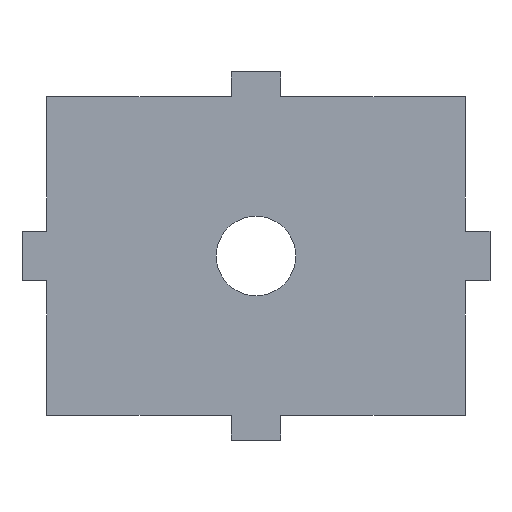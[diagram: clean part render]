
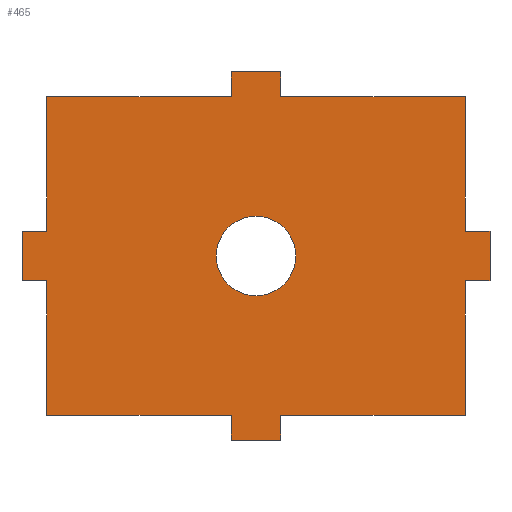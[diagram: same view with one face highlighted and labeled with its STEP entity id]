
A CAD part, front view. The second image highlights one B-rep face of the part: STEP entity #465.
In plain terms, the highlighted planar face has unit normal (0, -1, 0).
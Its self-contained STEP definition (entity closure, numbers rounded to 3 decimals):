
#16=FACE_BOUND('',#86,.T.);
#38=PLANE('',#504);
#61=FACE_OUTER_BOUND('',#85,.T.);
#85=EDGE_LOOP('',(#421,#422,#423,#424,#425,#426,#427,#428,#429,#430,#431,
#432,#433,#434,#435,#436,#437,#438,#439,#440));
#86=EDGE_LOOP('',(#441));
#88=LINE('',#628,#149);
#92=LINE('',#636,#153);
#95=LINE('',#642,#156);
#98=LINE('',#648,#159);
#101=LINE('',#654,#162);
#104=LINE('',#660,#165);
#107=LINE('',#666,#168);
#110=LINE('',#672,#171);
#113=LINE('',#678,#174);
#116=LINE('',#684,#177);
#119=LINE('',#690,#180);
#122=LINE('',#696,#183);
#125=LINE('',#702,#186);
#128=LINE('',#708,#189);
#131=LINE('',#714,#192);
#134=LINE('',#720,#195);
#137=LINE('',#726,#198);
#140=LINE('',#732,#201);
#143=LINE('',#738,#204);
#146=LINE('',#743,#207);
#149=VECTOR('',#516,10.);
#153=VECTOR('',#522,10.);
#156=VECTOR('',#527,10.);
#159=VECTOR('',#532,10.);
#162=VECTOR('',#537,10.);
#165=VECTOR('',#542,10.);
#168=VECTOR('',#547,10.);
#171=VECTOR('',#552,10.);
#174=VECTOR('',#557,10.);
#177=VECTOR('',#562,10.);
#180=VECTOR('',#567,10.);
#183=VECTOR('',#572,10.);
#186=VECTOR('',#577,10.);
#189=VECTOR('',#582,10.);
#192=VECTOR('',#587,10.);
#195=VECTOR('',#592,10.);
#198=VECTOR('',#597,10.);
#201=VECTOR('',#602,10.);
#204=VECTOR('',#607,10.);
#207=VECTOR('',#612,10.);
#210=CIRCLE('',#482,8.);
#212=VERTEX_POINT('',#622);
#213=VERTEX_POINT('',#626);
#214=VERTEX_POINT('',#627);
#217=VERTEX_POINT('',#635);
#219=VERTEX_POINT('',#641);
#221=VERTEX_POINT('',#647);
#223=VERTEX_POINT('',#653);
#225=VERTEX_POINT('',#659);
#227=VERTEX_POINT('',#665);
#229=VERTEX_POINT('',#671);
#231=VERTEX_POINT('',#677);
#233=VERTEX_POINT('',#683);
#235=VERTEX_POINT('',#689);
#237=VERTEX_POINT('',#695);
#239=VERTEX_POINT('',#701);
#241=VERTEX_POINT('',#707);
#243=VERTEX_POINT('',#713);
#245=VERTEX_POINT('',#719);
#247=VERTEX_POINT('',#725);
#249=VERTEX_POINT('',#731);
#251=VERTEX_POINT('',#737);
#255=EDGE_CURVE('',#212,#212,#210,.T.);
#256=EDGE_CURVE('',#213,#214,#88,.T.);
#260=EDGE_CURVE('',#214,#217,#92,.T.);
#263=EDGE_CURVE('',#217,#219,#95,.T.);
#266=EDGE_CURVE('',#219,#221,#98,.T.);
#269=EDGE_CURVE('',#221,#223,#101,.T.);
#272=EDGE_CURVE('',#223,#225,#104,.T.);
#275=EDGE_CURVE('',#225,#227,#107,.T.);
#278=EDGE_CURVE('',#227,#229,#110,.T.);
#281=EDGE_CURVE('',#229,#231,#113,.T.);
#284=EDGE_CURVE('',#231,#233,#116,.T.);
#287=EDGE_CURVE('',#235,#233,#119,.T.);
#290=EDGE_CURVE('',#237,#235,#122,.T.);
#293=EDGE_CURVE('',#239,#237,#125,.T.);
#296=EDGE_CURVE('',#241,#239,#128,.T.);
#299=EDGE_CURVE('',#243,#241,#131,.T.);
#302=EDGE_CURVE('',#245,#243,#134,.T.);
#305=EDGE_CURVE('',#247,#245,#137,.T.);
#308=EDGE_CURVE('',#249,#247,#140,.T.);
#311=EDGE_CURVE('',#251,#249,#143,.T.);
#314=EDGE_CURVE('',#213,#251,#146,.T.);
#421=ORIENTED_EDGE('',*,*,#314,.F.);
#422=ORIENTED_EDGE('',*,*,#256,.T.);
#423=ORIENTED_EDGE('',*,*,#260,.T.);
#424=ORIENTED_EDGE('',*,*,#263,.T.);
#425=ORIENTED_EDGE('',*,*,#266,.T.);
#426=ORIENTED_EDGE('',*,*,#269,.T.);
#427=ORIENTED_EDGE('',*,*,#272,.T.);
#428=ORIENTED_EDGE('',*,*,#275,.T.);
#429=ORIENTED_EDGE('',*,*,#278,.T.);
#430=ORIENTED_EDGE('',*,*,#281,.T.);
#431=ORIENTED_EDGE('',*,*,#284,.T.);
#432=ORIENTED_EDGE('',*,*,#287,.F.);
#433=ORIENTED_EDGE('',*,*,#290,.F.);
#434=ORIENTED_EDGE('',*,*,#293,.F.);
#435=ORIENTED_EDGE('',*,*,#296,.F.);
#436=ORIENTED_EDGE('',*,*,#299,.F.);
#437=ORIENTED_EDGE('',*,*,#302,.F.);
#438=ORIENTED_EDGE('',*,*,#305,.F.);
#439=ORIENTED_EDGE('',*,*,#308,.F.);
#440=ORIENTED_EDGE('',*,*,#311,.F.);
#441=ORIENTED_EDGE('',*,*,#255,.F.);
#465=ADVANCED_FACE('',(#61,#16),#38,.F.);
#482=AXIS2_PLACEMENT_3D('',#624,#512,#513);
#504=AXIS2_PLACEMENT_3D('',#746,#616,#617);
#512=DIRECTION('center_axis',(0.,-1.,0.));
#513=DIRECTION('ref_axis',(1.,0.,0.));
#516=DIRECTION('',(0.,0.,-1.));
#522=DIRECTION('',(-1.,0.,0.));
#527=DIRECTION('',(0.,0.,-1.));
#532=DIRECTION('',(1.,0.,0.));
#537=DIRECTION('',(0.,0.,-1.));
#542=DIRECTION('',(1.,0.,0.));
#547=DIRECTION('',(0.,0.,-1.));
#552=DIRECTION('',(1.,0.,0.));
#557=DIRECTION('',(0.,0.,1.));
#562=DIRECTION('',(1.,0.,0.));
#567=DIRECTION('',(0.,0.,-1.));
#572=DIRECTION('',(-1.,0.,0.));
#577=DIRECTION('',(0.,0.,-1.));
#582=DIRECTION('',(1.,0.,0.));
#587=DIRECTION('',(0.,0.,-1.));
#592=DIRECTION('',(1.,0.,0.));
#597=DIRECTION('',(0.,0.,-1.));
#602=DIRECTION('',(1.,0.,0.));
#607=DIRECTION('',(0.,0.,1.));
#612=DIRECTION('',(1.,0.,0.));
#616=DIRECTION('center_axis',(0.,1.,0.));
#617=DIRECTION('ref_axis',(1.,0.,0.));
#622=CARTESIAN_POINT('',(-8.,0.,0.));
#624=CARTESIAN_POINT('Origin',(0.,0.,0.));
#626=CARTESIAN_POINT('',(-42.,0.,32.));
#627=CARTESIAN_POINT('',(-42.,0.,5.));
#628=CARTESIAN_POINT('',(-42.,0.,32.));
#635=CARTESIAN_POINT('',(-47.,0.,5.));
#636=CARTESIAN_POINT('',(-42.,0.,5.));
#641=CARTESIAN_POINT('',(-47.,0.,-5.));
#642=CARTESIAN_POINT('',(-47.,0.,5.));
#647=CARTESIAN_POINT('',(-42.,0.,-5.));
#648=CARTESIAN_POINT('',(-47.,0.,-5.));
#653=CARTESIAN_POINT('',(-42.,0.,-32.));
#654=CARTESIAN_POINT('',(-42.,0.,-5.));
#659=CARTESIAN_POINT('',(-5.,0.,-32.));
#660=CARTESIAN_POINT('',(-42.,0.,-32.));
#665=CARTESIAN_POINT('',(-5.,0.,-37.));
#666=CARTESIAN_POINT('',(-5.,0.,-32.));
#671=CARTESIAN_POINT('',(5.,0.,-37.));
#672=CARTESIAN_POINT('',(-5.,0.,-37.));
#677=CARTESIAN_POINT('',(5.,0.,-32.));
#678=CARTESIAN_POINT('',(5.,0.,-37.));
#683=CARTESIAN_POINT('',(42.,0.,-32.));
#684=CARTESIAN_POINT('',(5.,0.,-32.));
#689=CARTESIAN_POINT('',(42.,0.,-5.));
#690=CARTESIAN_POINT('',(42.,0.,-5.));
#695=CARTESIAN_POINT('',(47.,0.,-5.));
#696=CARTESIAN_POINT('',(47.,0.,-5.));
#701=CARTESIAN_POINT('',(47.,0.,5.));
#702=CARTESIAN_POINT('',(47.,0.,5.));
#707=CARTESIAN_POINT('',(42.,0.,5.));
#708=CARTESIAN_POINT('',(42.,0.,5.));
#713=CARTESIAN_POINT('',(42.,0.,32.));
#714=CARTESIAN_POINT('',(42.,0.,32.));
#719=CARTESIAN_POINT('',(5.,0.,32.));
#720=CARTESIAN_POINT('',(5.,0.,32.));
#725=CARTESIAN_POINT('',(5.,0.,37.));
#726=CARTESIAN_POINT('',(5.,0.,37.));
#731=CARTESIAN_POINT('',(-5.,0.,37.));
#732=CARTESIAN_POINT('',(-5.,0.,37.));
#737=CARTESIAN_POINT('',(-5.,0.,32.));
#738=CARTESIAN_POINT('',(-5.,0.,32.));
#743=CARTESIAN_POINT('',(-42.,0.,32.));
#746=CARTESIAN_POINT('Origin',(0.,0.,0.));
